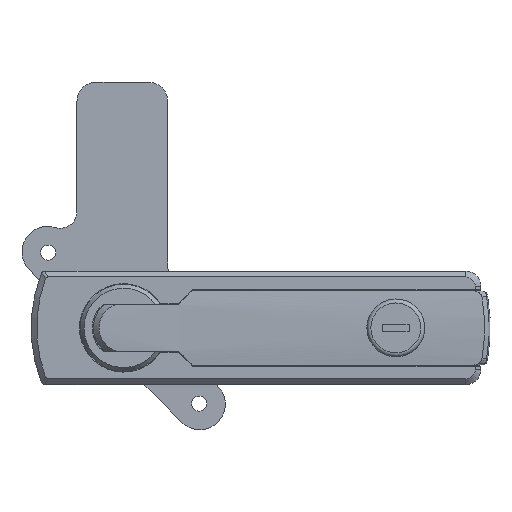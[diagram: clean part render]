
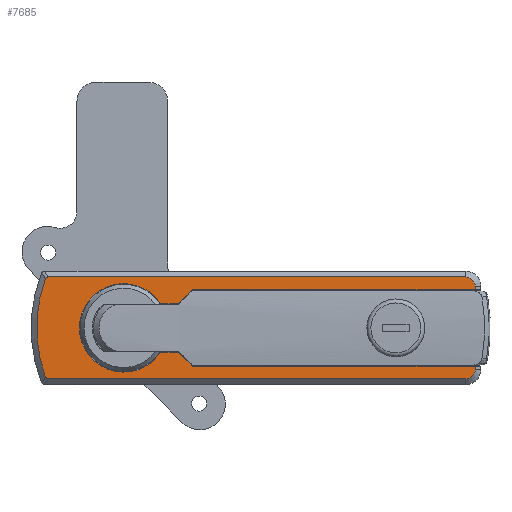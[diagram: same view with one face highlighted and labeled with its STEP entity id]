
A CAD part, top view. The second image highlights one B-rep face of the part: STEP entity #7685.
In plain terms, the highlighted planar face has unit normal (0, 0, 1).
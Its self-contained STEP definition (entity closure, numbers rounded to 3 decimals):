
#173=B_SPLINE_CURVE_WITH_KNOTS('',3,(#12700,#12701,#12702,#12703,#12704,
#12705,#12706,#12707,#12708,#12709),.UNSPECIFIED.,.F.,.F.,(4,2,2,2,4),(0.,
0.03,0.055,0.071,0.087),
 .UNSPECIFIED.);
#177=B_SPLINE_CURVE_WITH_KNOTS('',3,(#12755,#12756,#12757,#12758,#12759,
#12760,#12761,#12762,#12763,#12764),.UNSPECIFIED.,.F.,.F.,(4,2,2,2,4),(0.,
0.03,0.055,0.071,0.087),
 .UNSPECIFIED.);
#454=PLANE('',#8243);
#796=FACE_OUTER_BOUND('',#1290,.T.);
#1290=EDGE_LOOP('',(#5905,#5906,#5907,#5908,#5909,#5910,#5911,#5912,#5913,
#5914,#5915,#5916,#5917,#5918,#5919,#5920));
#1862=LINE('',#12730,#2568);
#1863=LINE('',#12734,#2569);
#1864=LINE('',#12736,#2570);
#1865=LINE('',#12738,#2571);
#1866=LINE('',#12740,#2572);
#1867=LINE('',#12744,#2573);
#1868=LINE('',#12746,#2574);
#1869=LINE('',#12748,#2575);
#1870=LINE('',#12750,#2576);
#1871=LINE('',#12754,#2577);
#2568=VECTOR('',#9468,110.497);
#2569=VECTOR('',#9471,0.9);
#2570=VECTOR('',#9472,74.84);
#2571=VECTOR('',#9473,5.162);
#2572=VECTOR('',#9474,4.749);
#2573=VECTOR('',#9477,4.749);
#2574=VECTOR('',#9478,5.162);
#2575=VECTOR('',#9479,74.84);
#2576=VECTOR('',#9480,0.9);
#2577=VECTOR('',#9483,110.497);
#3139=CIRCLE('',#8241,37.5);
#3141=CIRCLE('',#8244,2.5);
#3142=CIRCLE('',#8245,11.7);
#3143=CIRCLE('',#8246,2.5);
#3565=VERTEX_POINT('',#12694);
#3566=VERTEX_POINT('',#12699);
#3567=VERTEX_POINT('',#12715);
#3570=VERTEX_POINT('',#12729);
#3571=VERTEX_POINT('',#12731);
#3572=VERTEX_POINT('',#12733);
#3573=VERTEX_POINT('',#12735);
#3574=VERTEX_POINT('',#12737);
#3575=VERTEX_POINT('',#12739);
#3576=VERTEX_POINT('',#12741);
#3577=VERTEX_POINT('',#12743);
#3578=VERTEX_POINT('',#12745);
#3579=VERTEX_POINT('',#12747);
#3580=VERTEX_POINT('',#12749);
#3581=VERTEX_POINT('',#12751);
#3582=VERTEX_POINT('',#12753);
#4426=EDGE_CURVE('',#3565,#3566,#173,.T.);
#4428=EDGE_CURVE('',#3566,#3567,#3139,.T.);
#4432=EDGE_CURVE('',#3570,#3565,#1862,.T.);
#4433=EDGE_CURVE('',#3571,#3570,#3141,.T.);
#4434=EDGE_CURVE('',#3572,#3571,#1863,.T.);
#4435=EDGE_CURVE('',#3572,#3573,#1864,.T.);
#4436=EDGE_CURVE('',#3573,#3574,#1865,.T.);
#4437=EDGE_CURVE('',#3574,#3575,#1866,.T.);
#4438=EDGE_CURVE('',#3575,#3576,#3142,.T.);
#4439=EDGE_CURVE('',#3576,#3577,#1867,.T.);
#4440=EDGE_CURVE('',#3577,#3578,#1868,.T.);
#4441=EDGE_CURVE('',#3578,#3579,#1869,.T.);
#4442=EDGE_CURVE('',#3580,#3579,#1870,.T.);
#4443=EDGE_CURVE('',#3581,#3580,#3143,.T.);
#4444=EDGE_CURVE('',#3582,#3581,#1871,.T.);
#4445=EDGE_CURVE('',#3567,#3582,#177,.T.);
#5905=ORIENTED_EDGE('',*,*,#4426,.F.);
#5906=ORIENTED_EDGE('',*,*,#4432,.F.);
#5907=ORIENTED_EDGE('',*,*,#4433,.F.);
#5908=ORIENTED_EDGE('',*,*,#4434,.F.);
#5909=ORIENTED_EDGE('',*,*,#4435,.T.);
#5910=ORIENTED_EDGE('',*,*,#4436,.T.);
#5911=ORIENTED_EDGE('',*,*,#4437,.T.);
#5912=ORIENTED_EDGE('',*,*,#4438,.T.);
#5913=ORIENTED_EDGE('',*,*,#4439,.T.);
#5914=ORIENTED_EDGE('',*,*,#4440,.T.);
#5915=ORIENTED_EDGE('',*,*,#4441,.T.);
#5916=ORIENTED_EDGE('',*,*,#4442,.F.);
#5917=ORIENTED_EDGE('',*,*,#4443,.F.);
#5918=ORIENTED_EDGE('',*,*,#4444,.F.);
#5919=ORIENTED_EDGE('',*,*,#4445,.F.);
#5920=ORIENTED_EDGE('',*,*,#4428,.F.);
#7685=ADVANCED_FACE('',(#796),#454,.T.);
#8241=AXIS2_PLACEMENT_3D('',#12716,#9462,#9463);
#8243=AXIS2_PLACEMENT_3D('',#12728,#9466,#9467);
#8244=AXIS2_PLACEMENT_3D('',#12732,#9469,#9470);
#8245=AXIS2_PLACEMENT_3D('',#12742,#9475,#9476);
#8246=AXIS2_PLACEMENT_3D('',#12752,#9481,#9482);
#9462=DIRECTION('center_axis',(0.,0.,-1.));
#9463=DIRECTION('ref_axis',(0.385,0.923,0.));
#9466=DIRECTION('center_axis',(0.,0.,1.));
#9467=DIRECTION('ref_axis',(1.,0.,0.));
#9468=DIRECTION('',(0.,1.,0.));
#9469=DIRECTION('center_axis',(0.,0.,-1.));
#9470=DIRECTION('ref_axis',(-0.707,-0.707,0.));
#9471=DIRECTION('',(-1.,0.,0.));
#9472=DIRECTION('',(0.,1.,0.));
#9473=DIRECTION('',(0.707,0.707,0.));
#9474=DIRECTION('',(0.,1.,0.));
#9475=DIRECTION('center_axis',(0.,0.,-1.));
#9476=DIRECTION('ref_axis',(1.,0.,0.));
#9477=DIRECTION('',(0.,-1.,0.));
#9478=DIRECTION('',(0.707,-0.707,0.));
#9479=DIRECTION('',(0.,-1.,0.));
#9480=DIRECTION('',(-1.,0.,0.));
#9481=DIRECTION('center_axis',(0.,0.,-1.));
#9482=DIRECTION('ref_axis',(0.707,-0.707,0.));
#9483=DIRECTION('',(0.,-1.,0.));
#12694=CARTESIAN_POINT('',(-13.5,19.997,3.));
#12699=CARTESIAN_POINT('',(-13.039,20.66,3.));
#12700=CARTESIAN_POINT('Ctrl Pts',(-13.5,19.997,3.));
#12701=CARTESIAN_POINT('Ctrl Pts',(-13.5,20.096,3.));
#12702=CARTESIAN_POINT('Ctrl Pts',(-13.483,20.193,3.));
#12703=CARTESIAN_POINT('Ctrl Pts',(-13.413,20.363,3.));
#12704=CARTESIAN_POINT('Ctrl Pts',(-13.366,20.434,3.));
#12705=CARTESIAN_POINT('Ctrl Pts',(-13.268,20.531,3.));
#12706=CARTESIAN_POINT('Ctrl Pts',(-13.228,20.562,3.));
#12707=CARTESIAN_POINT('Ctrl Pts',(-13.138,20.618,3.));
#12708=CARTESIAN_POINT('Ctrl Pts',(-13.089,20.641,3.));
#12709=CARTESIAN_POINT('Ctrl Pts',(-13.039,20.66,3.));
#12715=CARTESIAN_POINT('',(13.039,20.66,3.));
#12716=CARTESIAN_POINT('Origin',(0.,-14.5,3.));
#12728=CARTESIAN_POINT('Origin',(0.,-37.743,3.));
#12729=CARTESIAN_POINT('',(-13.5,-90.5,3.));
#12730=CARTESIAN_POINT('',(-13.5,-8.122,3.));
#12731=CARTESIAN_POINT('',(-11.,-93.,3.));
#12732=CARTESIAN_POINT('Origin',(-11.,-90.5,3.));
#12733=CARTESIAN_POINT('',(-10.1,-93.,3.));
#12734=CARTESIAN_POINT('',(-7.5,-93.,3.));
#12735=CARTESIAN_POINT('',(-10.1,-18.16,3.));
#12736=CARTESIAN_POINT('',(-10.1,-64.122,3.));
#12737=CARTESIAN_POINT('',(-6.45,-14.51,3.));
#12738=CARTESIAN_POINT('',(-12.471,-20.531,3.));
#12739=CARTESIAN_POINT('',(-6.45,-9.762,3.));
#12740=CARTESIAN_POINT('',(-6.45,-26.127,3.));
#12741=CARTESIAN_POINT('',(6.45,-9.762,3.));
#12742=CARTESIAN_POINT('Origin',(0.,0.,3.));
#12743=CARTESIAN_POINT('',(6.45,-14.51,3.));
#12744=CARTESIAN_POINT('',(6.45,-22.627,3.));
#12745=CARTESIAN_POINT('',(10.1,-18.16,3.));
#12746=CARTESIAN_POINT('',(10.646,-18.706,3.));
#12747=CARTESIAN_POINT('',(10.1,-93.,3.));
#12748=CARTESIAN_POINT('',(10.1,-59.622,3.));
#12749=CARTESIAN_POINT('',(11.,-93.,3.));
#12750=CARTESIAN_POINT('',(-7.5,-93.,3.));
#12751=CARTESIAN_POINT('',(13.5,-90.5,3.));
#12752=CARTESIAN_POINT('Origin',(11.,-90.5,3.));
#12753=CARTESIAN_POINT('',(13.5,19.997,3.));
#12754=CARTESIAN_POINT('',(13.5,-66.122,3.));
#12755=CARTESIAN_POINT('Ctrl Pts',(13.039,20.66,3.));
#12756=CARTESIAN_POINT('Ctrl Pts',(13.131,20.626,3.));
#12757=CARTESIAN_POINT('Ctrl Pts',(13.217,20.576,3.));
#12758=CARTESIAN_POINT('Ctrl Pts',(13.352,20.451,3.));
#12759=CARTESIAN_POINT('Ctrl Pts',(13.402,20.382,3.));
#12760=CARTESIAN_POINT('Ctrl Pts',(13.458,20.257,3.));
#12761=CARTESIAN_POINT('Ctrl Pts',(13.474,20.208,3.));
#12762=CARTESIAN_POINT('Ctrl Pts',(13.495,20.105,3.));
#12763=CARTESIAN_POINT('Ctrl Pts',(13.5,20.051,3.));
#12764=CARTESIAN_POINT('Ctrl Pts',(13.5,19.997,3.));
